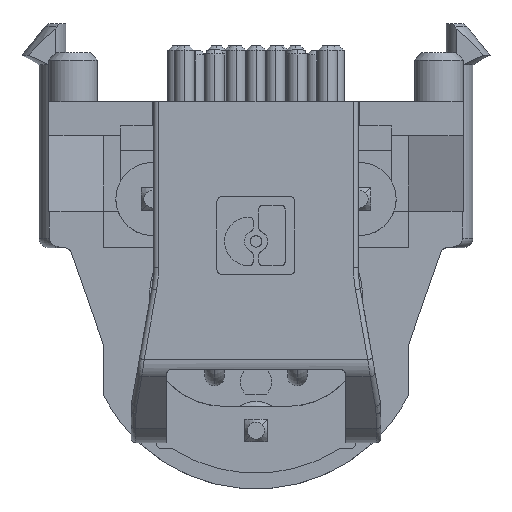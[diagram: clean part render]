
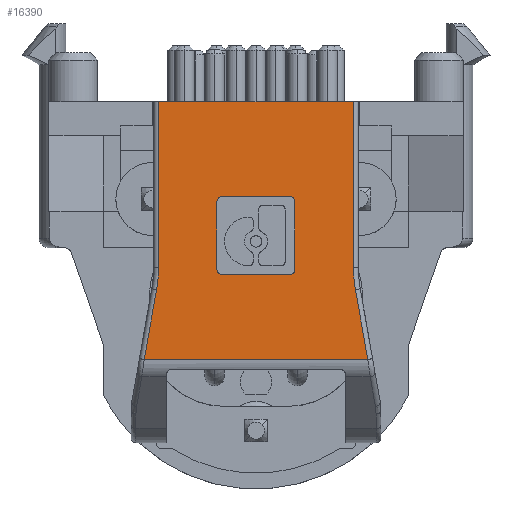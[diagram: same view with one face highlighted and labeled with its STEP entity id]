
A CAD part, front view. The second image highlights one B-rep face of the part: STEP entity #16390.
In plain terms, the highlighted planar face has unit normal (0, -1, 0).
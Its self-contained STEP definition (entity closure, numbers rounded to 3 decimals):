
#2169=DIRECTION('',(1.,0.,0.));
#2170=VECTOR('',#2169,9.17);
#2171=CARTESIAN_POINT('',(-4.585,-11.9,
-2.086));
#2172=LINE('',#2171,#2170);
#2269=DIRECTION('',(0.,0.,1.));
#2270=VECTOR('',#2269,6.813);
#2271=CARTESIAN_POINT('',(4.,-11.9,1.687));
#2272=LINE('',#2271,#2270);
#2273=CARTESIAN_POINT('',(9.2,-11.9,1.687));
#2274=DIRECTION('',(0.,1.,0.));
#2275=DIRECTION('',(-0.985,0.,-0.174));
#2276=AXIS2_PLACEMENT_3D('',#2273,#2274,#2275);
#2278=DIRECTION('',(-0.174,0.,0.985));
#2279=VECTOR('',#2278,2.915);
#2280=CARTESIAN_POINT('',(4.585,-11.9,
-2.086));
#2281=LINE('',#2280,#2279);
#2282=DIRECTION('',(-0.174,0.,-0.985));
#2283=VECTOR('',#2282,2.915);
#2284=CARTESIAN_POINT('',(-4.079,-11.9,0.784));
#2285=LINE('',#2284,#2283);
#2286=CARTESIAN_POINT('',(-9.2,-11.9,1.687));
#2287=DIRECTION('',(0.,1.,0.));
#2288=DIRECTION('',(1.,0.,0.));
#2289=AXIS2_PLACEMENT_3D('',#2286,#2287,#2288);
#2291=DIRECTION('',(0.,0.,-1.));
#2292=VECTOR('',#2291,6.813);
#2293=CARTESIAN_POINT('',(-4.,-11.9,8.5));
#2294=LINE('',#2293,#2292);
#2295=CARTESIAN_POINT('',(1.39,-11.9,4.39));
#2296=DIRECTION('',(0.,-1.,0.));
#2297=DIRECTION('',(1.,0.,0.));
#2298=AXIS2_PLACEMENT_3D('',#2295,#2296,#2297);
#2300=DIRECTION('',(-1.,0.,0.));
#2301=VECTOR('',#2300,2.78);
#2302=CARTESIAN_POINT('',(1.39,-11.9,4.6));
#2303=LINE('',#2302,#2301);
#2304=CARTESIAN_POINT('',(-1.39,-11.9,4.39));
#2305=DIRECTION('',(0.,-1.,0.));
#2306=DIRECTION('',(0.,0.,1.));
#2307=AXIS2_PLACEMENT_3D('',#2304,#2305,#2306);
#2309=DIRECTION('',(0.,0.,-1.));
#2310=VECTOR('',#2309,2.78);
#2311=CARTESIAN_POINT('',(-1.6,-11.9,4.39));
#2312=LINE('',#2311,#2310);
#2313=CARTESIAN_POINT('',(-1.39,-11.9,1.61));
#2314=DIRECTION('',(0.,-1.,0.));
#2315=DIRECTION('',(-1.,0.,0.));
#2316=AXIS2_PLACEMENT_3D('',#2313,#2314,#2315);
#2318=DIRECTION('',(1.,0.,0.));
#2319=VECTOR('',#2318,2.78);
#2320=CARTESIAN_POINT('',(-1.39,-11.9,1.4));
#2321=LINE('',#2320,#2319);
#2322=CARTESIAN_POINT('',(1.39,-11.9,1.61));
#2323=DIRECTION('',(0.,-1.,0.));
#2324=DIRECTION('',(0.,0.,-1.));
#2325=AXIS2_PLACEMENT_3D('',#2322,#2323,#2324);
#2327=DIRECTION('',(0.,0.,1.));
#2328=VECTOR('',#2327,2.78);
#2329=CARTESIAN_POINT('',(1.6,-11.9,1.61));
#2330=LINE('',#2329,#2328);
#2357=DIRECTION('',(1.,0.,0.));
#2358=VECTOR('',#2357,8.);
#2359=CARTESIAN_POINT('',(-4.,-11.9,8.5));
#2360=LINE('',#2359,#2358);
#13378=CARTESIAN_POINT('',(4.,-11.9,8.5));
#13380=VERTEX_POINT('',#13378);
#13384=CARTESIAN_POINT('',(4.,-11.9,1.687));
#13385=VERTEX_POINT('',#13384);
#13386=CARTESIAN_POINT('',(4.079,-11.9,0.784));
#13387=VERTEX_POINT('',#13386);
#13390=CARTESIAN_POINT('',(4.585,-11.9,
-2.086));
#13391=VERTEX_POINT('',#13390);
#13438=CARTESIAN_POINT('',(-4.079,-11.9,0.784));
#13439=CARTESIAN_POINT('',(-4.585,-11.9,
-2.086));
#13440=VERTEX_POINT('',#13438);
#13441=VERTEX_POINT('',#13439);
#13446=CARTESIAN_POINT('',(-4.,-11.9,1.687));
#13447=VERTEX_POINT('',#13446);
#13451=CARTESIAN_POINT('',(-4.,-11.9,8.5));
#13453=VERTEX_POINT('',#13451);
#13584=CARTESIAN_POINT('',(1.6,-11.9,4.39));
#13585=CARTESIAN_POINT('',(1.39,-11.9,4.6));
#13586=VERTEX_POINT('',#13584);
#13587=VERTEX_POINT('',#13585);
#13588=CARTESIAN_POINT('',(-1.39,-11.9,4.6));
#13589=VERTEX_POINT('',#13588);
#13590=CARTESIAN_POINT('',(-1.6,-11.9,4.39));
#13591=VERTEX_POINT('',#13590);
#13592=CARTESIAN_POINT('',(-1.6,-11.9,1.61));
#13593=VERTEX_POINT('',#13592);
#13594=CARTESIAN_POINT('',(-1.39,-11.9,1.4));
#13595=VERTEX_POINT('',#13594);
#13596=CARTESIAN_POINT('',(1.39,-11.9,1.4));
#13597=VERTEX_POINT('',#13596);
#13598=CARTESIAN_POINT('',(1.6,-11.9,1.61));
#13599=VERTEX_POINT('',#13598);
#16351=CARTESIAN_POINT('',(-4.2,-11.9,-5.5));
#16352=DIRECTION('',(0.,-1.,0.));
#16353=DIRECTION('',(1.,0.,0.));
#16354=AXIS2_PLACEMENT_3D('',#16351,#16352,#16353);
#16355=PLANE('',#16354);
#16357=ORIENTED_EDGE('',*,*,#16356,.F.);
#16359=ORIENTED_EDGE('',*,*,#16358,.F.);
#16361=ORIENTED_EDGE('',*,*,#16360,.F.);
#16362=ORIENTED_EDGE('',*,*,#16219,.F.);
#16364=ORIENTED_EDGE('',*,*,#16363,.F.);
#16365=ORIENTED_EDGE('',*,*,#16341,.F.);
#16367=ORIENTED_EDGE('',*,*,#16366,.F.);
#16369=ORIENTED_EDGE('',*,*,#16368,.T.);
#16370=EDGE_LOOP('',(#16357,#16359,#16361,#16362,#16364,#16365,#16367,#16369));
#16371=FACE_OUTER_BOUND('',#16370,.F.);
#16373=ORIENTED_EDGE('',*,*,#16372,.T.);
#16375=ORIENTED_EDGE('',*,*,#16374,.T.);
#16377=ORIENTED_EDGE('',*,*,#16376,.T.);
#16379=ORIENTED_EDGE('',*,*,#16378,.T.);
#16381=ORIENTED_EDGE('',*,*,#16380,.T.);
#16383=ORIENTED_EDGE('',*,*,#16382,.T.);
#16385=ORIENTED_EDGE('',*,*,#16384,.T.);
#16387=ORIENTED_EDGE('',*,*,#16386,.T.);
#16388=EDGE_LOOP('',(#16373,#16375,#16377,#16379,#16381,#16383,#16385,#16387));
#16389=FACE_BOUND('',#16388,.F.);
#16390=ADVANCED_FACE('',(#16371,#16389),#16355,.T.);
#2277=CIRCLE('',#2276,5.2);
#2290=CIRCLE('',#2289,5.2);
#2299=CIRCLE('',#2298,0.21);
#2308=CIRCLE('',#2307,0.21);
#2317=CIRCLE('',#2316,0.21);
#2326=CIRCLE('',#2325,0.21);
#16219=EDGE_CURVE('',#13441,#13391,#2172,.T.);
#16341=EDGE_CURVE('',#13447,#13440,#2290,.T.);
#16356=EDGE_CURVE('',#13385,#13380,#2272,.T.);
#16358=EDGE_CURVE('',#13387,#13385,#2277,.T.);
#16360=EDGE_CURVE('',#13391,#13387,#2281,.T.);
#16363=EDGE_CURVE('',#13440,#13441,#2285,.T.);
#16366=EDGE_CURVE('',#13453,#13447,#2294,.T.);
#16368=EDGE_CURVE('',#13453,#13380,#2360,.T.);
#16372=EDGE_CURVE('',#13586,#13587,#2299,.T.);
#16374=EDGE_CURVE('',#13587,#13589,#2303,.T.);
#16376=EDGE_CURVE('',#13589,#13591,#2308,.T.);
#16378=EDGE_CURVE('',#13591,#13593,#2312,.T.);
#16380=EDGE_CURVE('',#13593,#13595,#2317,.T.);
#16382=EDGE_CURVE('',#13595,#13597,#2321,.T.);
#16384=EDGE_CURVE('',#13597,#13599,#2326,.T.);
#16386=EDGE_CURVE('',#13599,#13586,#2330,.T.);
